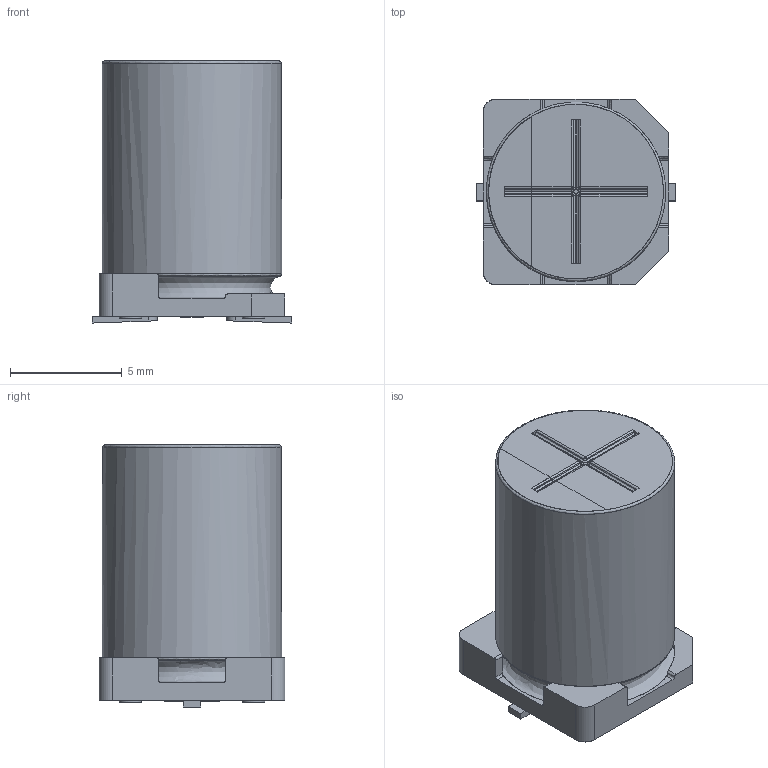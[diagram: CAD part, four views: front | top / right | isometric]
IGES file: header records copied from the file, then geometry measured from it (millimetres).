
Start section: JAMA-IS VERSION  1.0
Bounding box: 8.9 x 8.3 x 11.7 mm (x, y, z)
Surface area: 592 mm2 (no closed solid volume)
Topology: 0 solids, 0 shells, 132 faces, 1288 edges, 1270 vertices
Faces by surface type: bspline 132
